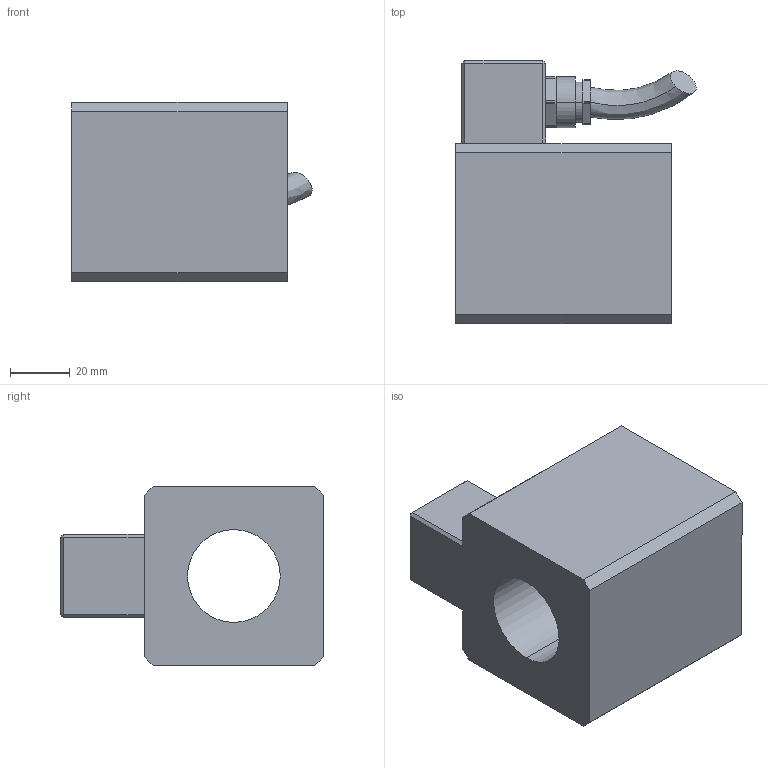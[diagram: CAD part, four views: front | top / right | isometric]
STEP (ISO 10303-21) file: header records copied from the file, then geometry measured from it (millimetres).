
FILE_DESCRIPTION (( 'STEP AP214' ), '1' );
FILE_NAME ('MKS60_31x72-M28-DC.STEP', '2015-07-17T07:52:55', ( '' ), ( '' ), 'SwSTEP 2.0', 'SolidWorks 2014', '' );
FILE_SCHEMA (( 'AUTOMOTIVE_DESIGN' ));
Length unit declared in the file: millimetre
Products named in the file (2): MKS60_31x72-M28-DC
Bounding box: 80.36 x 88 x 60 mm (x, y, z)
Volume: 238498.9 mm3; surface area: 41005.5 mm2
Topology: 2 solids, 9 shells, 211 faces, 502 edges, 312 vertices
Faces by surface type: plane 118, cylinder 63, cone 18, torus 10, bspline 2
Entity records: 8477 total; most frequent: CARTESIAN_POINT 1279, DIRECTION 1084, ORIENTED_EDGE 988, EDGE_CURVE 494, AXIS2_PLACEMENT_3D 403, VERTEX_POINT 312, LINE 278, VECTOR 278
